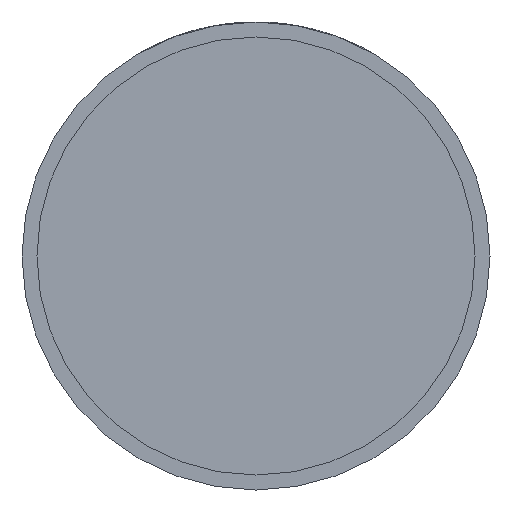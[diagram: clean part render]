
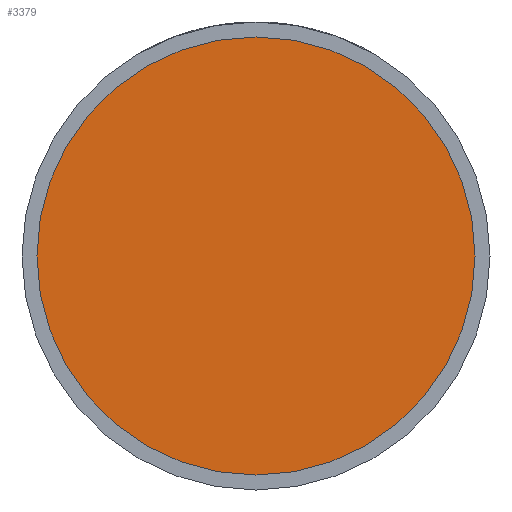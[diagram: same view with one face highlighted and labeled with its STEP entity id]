
A CAD part, front view. The second image highlights one B-rep face of the part: STEP entity #3379.
In plain terms, the highlighted planar face has unit normal (0, -1, 0).
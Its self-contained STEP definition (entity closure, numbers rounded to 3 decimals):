
#87 = AXIS2_PLACEMENT_3D ( 'NONE', #3740, #1437, #1779 ) ;
#608 = DIRECTION ( 'NONE',  ( 0., -1., 0. ) ) ;
#971 = FACE_OUTER_BOUND ( 'NONE', #4064, .T. ) ;
#1164 = VERTEX_POINT ( 'NONE', #2917 ) ;
#1400 = CIRCLE ( 'NONE', #1672, 33.7 ) ;
#1437 = DIRECTION ( 'NONE',  ( 0., -1., 0. ) ) ;
#1516 = EDGE_CURVE ( 'NONE', #1164, #4021, #1400, .T. ) ;
#1553 = ORIENTED_EDGE ( 'NONE', *, *, #4289, .T. ) ;
#1637 = PLANE ( 'NONE',  #2531 ) ;
#1672 = AXIS2_PLACEMENT_3D ( 'NONE', #3839, #1836, #2170 ) ;
#1779 = DIRECTION ( 'NONE',  ( 1., 0., 0. ) ) ;
#1808 = CARTESIAN_POINT ( 'NONE',  ( -33.7, -20., 0. ) ) ;
#1836 = DIRECTION ( 'NONE',  ( 0., -1., 0. ) ) ;
#2170 = DIRECTION ( 'NONE',  ( 1., 0., 0. ) ) ;
#2531 = AXIS2_PLACEMENT_3D ( 'NONE', #2636, #608, #3599 ) ;
#2636 = CARTESIAN_POINT ( 'NONE',  ( 33.7, -20., 0. ) ) ;
#2917 = CARTESIAN_POINT ( 'NONE',  ( 33.7, -20., 0. ) ) ;
#3079 = ORIENTED_EDGE ( 'NONE', *, *, #1516, .T. ) ;
#3379 = ADVANCED_FACE ( 'NONE', ( #971 ), #1637, .T. ) ;
#3599 = DIRECTION ( 'NONE',  ( 1., 0., 0. ) ) ;
#3740 = CARTESIAN_POINT ( 'NONE',  ( 0., -20., 0. ) ) ;
#3839 = CARTESIAN_POINT ( 'NONE',  ( 0., -20., 0. ) ) ;
#3975 = CIRCLE ( 'NONE', #87, 33.7 ) ;
#4021 = VERTEX_POINT ( 'NONE', #1808 ) ;
#4064 = EDGE_LOOP ( 'NONE', ( #3079, #1553 ) ) ;
#4289 = EDGE_CURVE ( 'NONE', #4021, #1164, #3975, .T. ) ;
